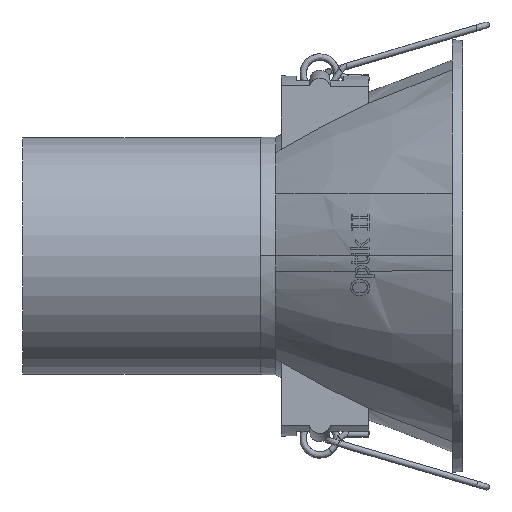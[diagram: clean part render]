
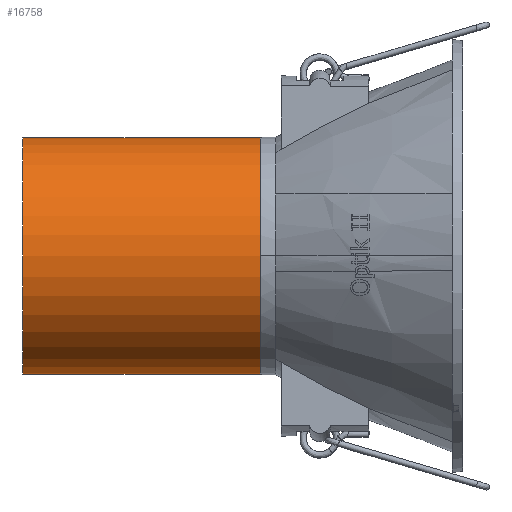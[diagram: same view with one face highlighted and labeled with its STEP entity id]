
A CAD part, left-side view. The second image highlights one B-rep face of the part: STEP entity #16758.
In plain terms, the highlighted cylindrical face has radius 23 mm (diameter 46 mm), a partial arc.
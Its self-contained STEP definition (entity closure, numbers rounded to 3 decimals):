
#195 = AXIS2_PLACEMENT_3D ( 'NONE', #16189, #19858, #1891 ) ;
#473 = DIRECTION ( 'NONE',  ( 0., 0., 1. ) ) ;
#1693 = DIRECTION ( 'NONE',  ( 0., -1., 0. ) ) ;
#1843 = CARTESIAN_POINT ( 'NONE',  ( 0., 0., -23. ) ) ;
#1891 = DIRECTION ( 'NONE',  ( 0., 0., -1. ) ) ;
#1944 = CARTESIAN_POINT ( 'NONE',  ( 0., 46.2, 0. ) ) ;
#1983 = CARTESIAN_POINT ( 'NONE',  ( 0., 46.2, 23. ) ) ;
#2728 = EDGE_CURVE ( 'NONE', #20888, #6591, #21186, .T. ) ;
#2884 = VECTOR ( 'NONE', #10410, 1000. ) ;
#3228 = ORIENTED_EDGE ( 'NONE', *, *, #14994, .T. ) ;
#3379 = VERTEX_POINT ( 'NONE', #9868 ) ;
#5436 = ORIENTED_EDGE ( 'NONE', *, *, #2728, .F. ) ;
#6591 = VERTEX_POINT ( 'NONE', #10384 ) ;
#6685 = EDGE_CURVE ( 'NONE', #11549, #20888, #19184, .T. ) ;
#6794 = AXIS2_PLACEMENT_3D ( 'NONE', #1944, #21382, #473 ) ;
#7164 = DIRECTION ( 'NONE',  ( 0., -1., 0. ) ) ;
#9650 = ORIENTED_EDGE ( 'NONE', *, *, #10789, .F. ) ;
#9868 = CARTESIAN_POINT ( 'NONE',  ( 0., 0., -23. ) ) ;
#10384 = CARTESIAN_POINT ( 'NONE',  ( 0., 0., 23. ) ) ;
#10410 = DIRECTION ( 'NONE',  ( 0., -1., 0. ) ) ;
#10789 = EDGE_CURVE ( 'NONE', #6591, #3379, #15746, .T. ) ;
#11549 = VERTEX_POINT ( 'NONE', #13310 ) ;
#11837 = AXIS2_PLACEMENT_3D ( 'NONE', #12118, #7164, #21265 ) ;
#12118 = CARTESIAN_POINT ( 'NONE',  ( 0., 0., 0. ) ) ;
#13310 = CARTESIAN_POINT ( 'NONE',  ( 0., 46.2, -23. ) ) ;
#13979 = CARTESIAN_POINT ( 'NONE',  ( 0., 0., 23. ) ) ;
#14120 = FACE_OUTER_BOUND ( 'NONE', #15647, .T. ) ;
#14994 = EDGE_CURVE ( 'NONE', #11549, #3379, #20512, .T. ) ;
#15647 = EDGE_LOOP ( 'NONE', ( #5436, #22684, #3228, #9650 ) ) ;
#15746 = CIRCLE ( 'NONE', #195, 23. ) ;
#16189 = CARTESIAN_POINT ( 'NONE',  ( 0., 0., 0. ) ) ;
#16758 = ADVANCED_FACE ( 'NONE', ( #14120 ), #19385, .T. ) ;
#19184 = CIRCLE ( 'NONE', #6794, 23. ) ;
#19385 = CYLINDRICAL_SURFACE ( 'NONE', #11837, 23. ) ;
#19858 = DIRECTION ( 'NONE',  ( 0., -1., 0. ) ) ;
#20512 = LINE ( 'NONE', #1843, #21060 ) ;
#20888 = VERTEX_POINT ( 'NONE', #1983 ) ;
#21060 = VECTOR ( 'NONE', #1693, 1000. ) ;
#21186 = LINE ( 'NONE', #13979, #2884 ) ;
#21265 = DIRECTION ( 'NONE',  ( 0., 0., -1. ) ) ;
#21382 = DIRECTION ( 'NONE',  ( 0., 1., 0. ) ) ;
#22684 = ORIENTED_EDGE ( 'NONE', *, *, #6685, .F. ) ;
